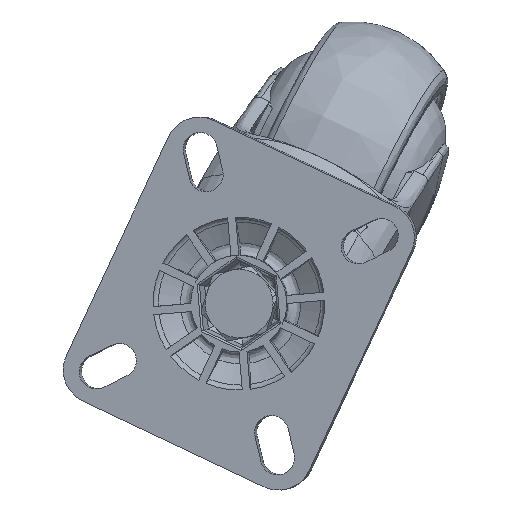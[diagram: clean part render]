
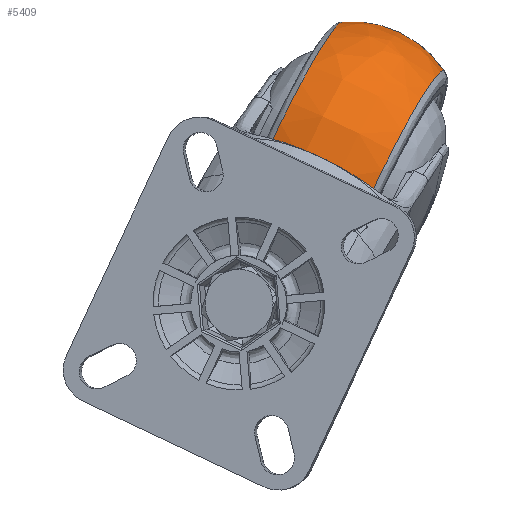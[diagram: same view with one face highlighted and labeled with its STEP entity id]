
A CAD part, top view. The second image highlights one B-rep face of the part: STEP entity #5409.
In plain terms, the highlighted free-form (B-spline) face has degree [3, 3] with [4, 4] control points.
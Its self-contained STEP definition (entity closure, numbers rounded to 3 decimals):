
#986 = DIRECTION ( 'NONE',  ( -0.424, -0.904, -0.044 ) ) ;
#1445 = CARTESIAN_POINT ( 'NONE',  ( 29.177, -17.745, 11.122 ) ) ;
#1693 = CARTESIAN_POINT ( 'NONE',  ( 0.546, -78.796, 8.121 ) ) ;
#2458 = AXIS2_PLACEMENT_3D ( 'NONE', #25037, #8233, #58896 ) ;
#4044 = CARTESIAN_POINT ( 'NONE',  ( 0.546, -78.796, 8.121 ) ) ;
#5300 = EDGE_CURVE ( 'NONE', #56584, #19554, #13801, .T. ) ;
#5409 = ADVANCED_FACE ( 'NONE', ( #35090 ), #48674, .T. ) ;
#8045 = ORIENTED_EDGE ( 'NONE', *, *, #5300, .T. ) ;
#8233 = DIRECTION ( 'NONE',  ( -0.105, 0.001, 0.994 ) ) ;
#8734 = ORIENTED_EDGE ( 'NONE', *, *, #23517, .F. ) ;
#8993 = CARTESIAN_POINT ( 'NONE',  ( 3.994, -5.803, 8.444 ) ) ;
#9579 = AXIS2_PLACEMENT_3D ( 'NONE', #23914, #23422, #986 ) ;
#13801 = CIRCLE ( 'NONE', #2458, 28. ) ;
#14885 = CARTESIAN_POINT ( 'NONE',  ( -17.812, -79.6, 84.356 ) ) ;
#15621 = CARTESIAN_POINT ( 'NONE',  ( 14.15, -4.954, 9.521 ) ) ;
#19554 = VERTEX_POINT ( 'NONE', #8993 ) ;
#20580 = CARTESIAN_POINT ( 'NONE',  ( -24.637, -66.854, 5.442 ) ) ;
#20817 = CARTESIAN_POINT ( 'NONE',  ( 3.994, -5.803, 8.444 ) ) ;
#21303 = CARTESIAN_POINT ( 'NONE',  ( -31.758, -66.814, 72.563 ) ) ;
#23422 = DIRECTION ( 'NONE',  ( -0.899, 0.427, -0.096 ) ) ;
#23517 = EDGE_CURVE ( 'NONE', #63685, #27370, #45113, .T. ) ;
#23914 = CARTESIAN_POINT ( 'NONE',  ( 14.862, -48.27, 9.621 ) ) ;
#24881 = ORIENTED_EDGE ( 'NONE', *, *, #52257, .T. ) ;
#25037 = CARTESIAN_POINT ( 'NONE',  ( 6.3, -33.707, 8.705 ) ) ;
#26023 = CARTESIAN_POINT ( 'NONE',  ( 22.057, -17.706, 78.243 ) ) ;
#26755 = CARTESIAN_POINT ( 'NONE',  ( 29.177, -17.745, 11.122 ) ) ;
#27370 = VERTEX_POINT ( 'NONE', #65124 ) ;
#29473 = ORIENTED_EDGE ( 'NONE', *, *, #64994, .T. ) ;
#32199 = CARTESIAN_POINT ( 'NONE',  ( -3.127, -5.764, 75.565 ) ) ;
#32446 = CARTESIAN_POINT ( 'NONE',  ( -18.828, -75.274, 6.063 ) ) ;
#34492 = CIRCLE ( 'NONE', #37361, 33.749 ) ;
#35090 = FACE_OUTER_BOUND ( 'NONE', #69961, .T. ) ;
#36848 = DIRECTION ( 'NONE',  ( -0.424, -0.904, -0.044 ) ) ;
#37361 = AXIS2_PLACEMENT_3D ( 'NONE', #70898, #43009, #36848 ) ;
#42215 = CARTESIAN_POINT ( 'NONE',  ( -1.759, -50.892, 7.86 ) ) ;
#43009 = DIRECTION ( 'NONE',  ( 0.899, -0.427, 0.096 ) ) ;
#43976 = AXIS2_PLACEMENT_3D ( 'NONE', #42215, #59756, #71089 ) ;
#45113 = CIRCLE ( 'NONE', #43976, 28. ) ;
#48674 =( BOUNDED_SURFACE ( )  B_SPLINE_SURFACE ( 3, 3, ( 
 ( #26755, #26023, #49261, #4044 ),
 ( #66018, #60854, #14885, #60115 ),
 ( #15621, #48757, #55149, #32446 ),
 ( #20817, #32199, #21303, #20580 ) ),
 .UNSPECIFIED., .F., .F., .F. ) 
 B_SPLINE_SURFACE_WITH_KNOTS ( ( 4, 4 ),
 ( 4, 4 ),
 ( 0., 1. ),
 ( 0., 1. ),
 .UNSPECIFIED. ) 
 GEOMETRIC_REPRESENTATION_ITEM ( )  RATIONAL_B_SPLINE_SURFACE ( (
 ( 1., 0.333, 0.333, 1.),
 ( 0.911, 0.304, 0.304, 0.911),
 ( 0.911, 0.304, 0.304, 0.911),
 ( 1., 0.333, 0.333, 1.) ) ) 
 REPRESENTATION_ITEM ( '' )  SURFACE ( )  );
#48757 = CARTESIAN_POINT ( 'NONE',  ( 5.949, -4.909, 86.833 ) ) ;
#49261 = CARTESIAN_POINT ( 'NONE',  ( -6.574, -78.756, 75.241 ) ) ;
#51167 = CIRCLE ( 'NONE', #9579, 33.749 ) ;
#52257 = EDGE_CURVE ( 'NONE', #63685, #56584, #51167, .T. ) ;
#55149 = CARTESIAN_POINT ( 'NONE',  ( -27.03, -75.229, 83.375 ) ) ;
#56584 = VERTEX_POINT ( 'NONE', #1445 ) ;
#58896 = DIRECTION ( 'NONE',  ( 0.424, 0.904, 0.044 ) ) ;
#59756 = DIRECTION ( 'NONE',  ( 0.105, -0.001, -0.994 ) ) ;
#60115 = CARTESIAN_POINT ( 'NONE',  ( -9.61, -79.645, 7.044 ) ) ;
#60854 = CARTESIAN_POINT ( 'NONE',  ( 15.166, -9.28, 87.813 ) ) ;
#63685 = VERTEX_POINT ( 'NONE', #1693 ) ;
#64994 = EDGE_CURVE ( 'NONE', #19554, #27370, #34492, .T. ) ;
#65124 = CARTESIAN_POINT ( 'NONE',  ( -24.637, -66.854, 5.442 ) ) ;
#66018 = CARTESIAN_POINT ( 'NONE',  ( 23.368, -9.325, 10.501 ) ) ;
#69961 = EDGE_LOOP ( 'NONE', ( #24881, #8045, #29473, #8734 ) ) ;
#70898 = CARTESIAN_POINT ( 'NONE',  ( -10.321, -36.328, 6.943 ) ) ;
#71089 = DIRECTION ( 'NONE',  ( -0.424, -0.904, -0.044 ) ) ;
